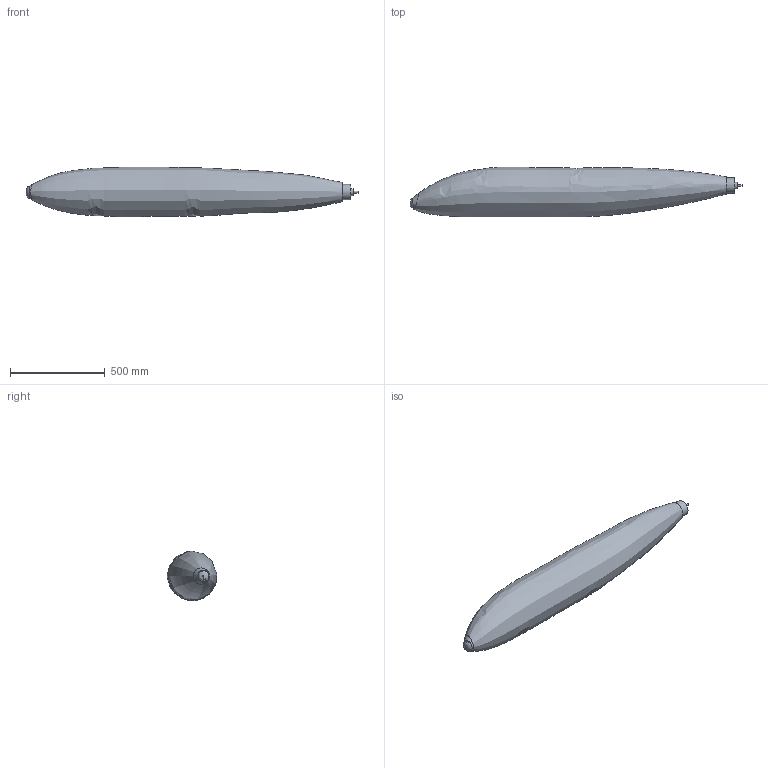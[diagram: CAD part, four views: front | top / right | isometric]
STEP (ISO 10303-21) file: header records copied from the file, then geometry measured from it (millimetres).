
FILE_DESCRIPTION(/* description */ (''),/* implementation_level */ '2;1');
FILE_NAME(/* name */ 'Configuration 1.step',/* time_stamp */ '2026-10-11T15:45:55+05:30',/* author */ (''),/* organization */ (''),/* preprocessor_version */ 'ST-DEVELOPER v20.2',/* originating_system */ 'Autodesk Translation Framework v15.15.0.0',/* authorisation */ '');
FILE_SCHEMA (('AUTOMOTIVE_DESIGN { 1 0 10303 214 3 1 1 }'));
Length unit declared in the file: centimetre
Products named in the file (1): 2026-10-11-03-12-16-874
Bounding box: 1748.38 x 262.24 x 260.36 mm (x, y, z)
Volume: 66015266 mm3; surface area: 1170604.8 mm2
Topology: 1 solids, 1 shells, 12 faces, 21 edges, 14 vertices
Faces by surface type: plane 5, bspline 4, cylinder 3
Full cylindrical faces by diameter (mm): 10 x1, 36 x1, 81.4 x1
Entity records: 5404 total; most frequent: CARTESIAN_POINT 5155, ORIENTED_EDGE 42, DIRECTION 39, EDGE_CURVE 21, AXIS2_PLACEMENT_3D 18, EDGE_LOOP 15, VERTEX_POINT 14, FACE_OUTER_BOUND 12
